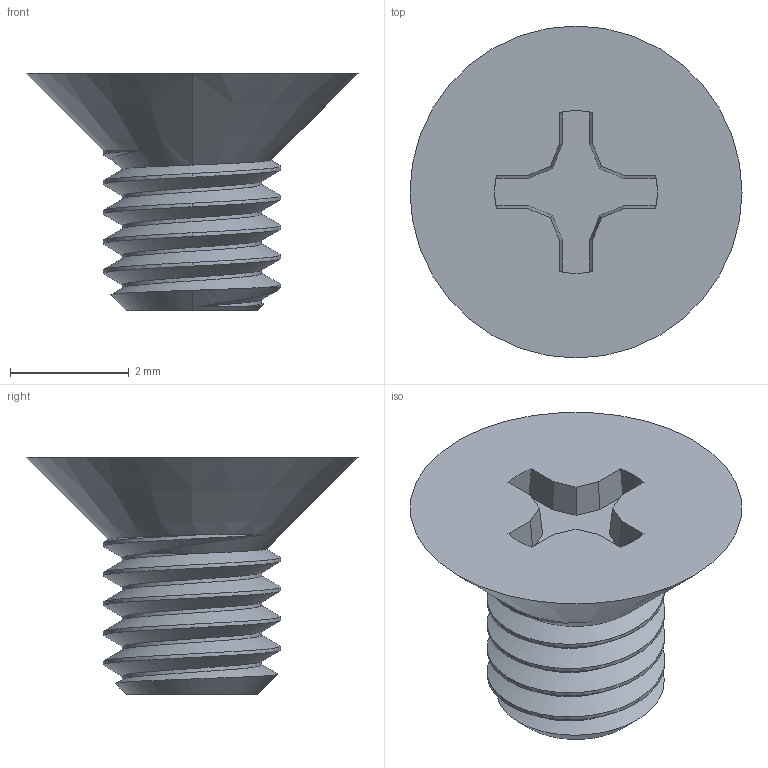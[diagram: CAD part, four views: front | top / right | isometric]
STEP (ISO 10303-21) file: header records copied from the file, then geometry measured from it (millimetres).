
FILE_DESCRIPTION (( 'STEP AP203' ), '1' );
FILE_NAME ('92010A112_Passivated 18-8 Stainless Steel Phillips Flat Head Screw.STEP', '2022-03-23T20:43:12', ( 'Administrator' ), ( 'Managed by Terraform' ), 'SwSTEP 2.0', 'SolidWorks 2017', '' );
FILE_SCHEMA (( 'CONFIG_CONTROL_DESIGN' ));
Length unit declared in the file: millimetre
Products named in the file (1): 92010A112_Passivated 18-8 Stainless Steel Phillips Flat Head Screw
Bounding box: 5.6 x 5.6 x 4 mm (x, y, z)
Volume: 33 mm3; surface area: 96.8 mm2
Topology: 1 solids, 1 shells, 43 faces, 120 edges, 80 vertices
Faces by surface type: plane 19, cylinder 17, cone 4, bspline 3
Entity records: 2292 total; most frequent: CARTESIAN_POINT 1207, ORIENTED_EDGE 240, DIRECTION 182, EDGE_CURVE 120, VERTEX_POINT 80, AXIS2_PLACEMENT_3D 61, VECTOR 60, LINE 60
